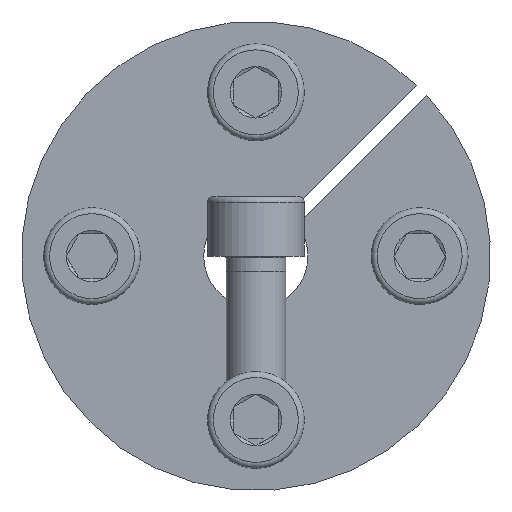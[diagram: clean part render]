
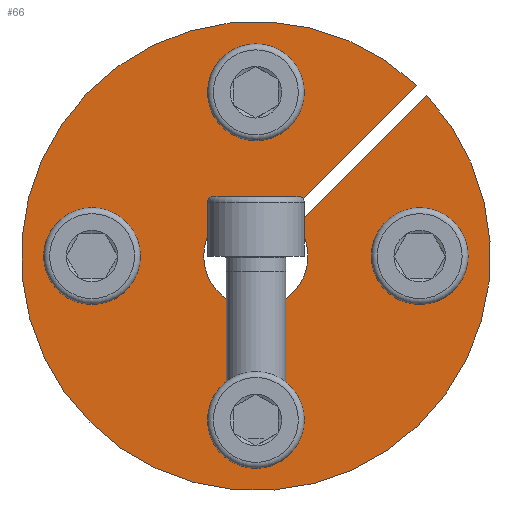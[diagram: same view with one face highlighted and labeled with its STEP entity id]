
A CAD part, front view. The second image highlights one B-rep face of the part: STEP entity #66.
In plain terms, the highlighted planar face has unit normal (0, -1, 0).
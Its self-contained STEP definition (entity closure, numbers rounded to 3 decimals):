
#66 = ADVANCED_FACE( '', ( #139, #140, #141, #142, #143 ), #144, .F. );
#139 = FACE_OUTER_BOUND( '', #245, .T. );
#140 = FACE_BOUND( '', #246, .T. );
#141 = FACE_BOUND( '', #247, .T. );
#142 = FACE_BOUND( '', #248, .T. );
#143 = FACE_BOUND( '', #249, .T. );
#144 = PLANE( '', #250 );
#245 = EDGE_LOOP( '', ( #380, #381, #382, #383 ) );
#246 = EDGE_LOOP( '', ( #384 ) );
#247 = EDGE_LOOP( '', ( #385 ) );
#248 = EDGE_LOOP( '', ( #386 ) );
#249 = EDGE_LOOP( '', ( #387 ) );
#250 = AXIS2_PLACEMENT_3D( '', #388, #389, #390 );
#380 = ORIENTED_EDGE( '', *, *, #606, .T. );
#381 = ORIENTED_EDGE( '', *, *, #607, .T. );
#382 = ORIENTED_EDGE( '', *, *, #608, .T. );
#383 = ORIENTED_EDGE( '', *, *, #609, .F. );
#384 = ORIENTED_EDGE( '', *, *, #610, .F. );
#385 = ORIENTED_EDGE( '', *, *, #611, .F. );
#386 = ORIENTED_EDGE( '', *, *, #612, .F. );
#387 = ORIENTED_EDGE( '', *, *, #613, .F. );
#388 = CARTESIAN_POINT( '', ( 0., 0., 31.5 ) );
#389 = DIRECTION( '', ( 0., 1., 0. ) );
#390 = DIRECTION( '', ( 1., 0., 0. ) );
#606 = EDGE_CURVE( '', #743, #744, #745, .T. );
#607 = EDGE_CURVE( '', #744, #746, #747, .T. );
#608 = EDGE_CURVE( '', #746, #748, #749, .T. );
#609 = EDGE_CURVE( '', #743, #748, #750, .T. );
#610 = EDGE_CURVE( '', #751, #751, #752, .T. );
#611 = EDGE_CURVE( '', #753, #753, #754, .T. );
#612 = EDGE_CURVE( '', #755, #755, #756, .T. );
#613 = EDGE_CURVE( '', #757, #757, #758, .T. );
#743 = VERTEX_POINT( '', #994 );
#744 = VERTEX_POINT( '', #995 );
#745 = LINE( '', #996, #997 );
#746 = VERTEX_POINT( '', #998 );
#747 = CIRCLE( '', #999, 31.5 );
#748 = VERTEX_POINT( '', #1000 );
#749 = LINE( '', #1001, #1002 );
#750 = CIRCLE( '', #1003, 7. );
#751 = VERTEX_POINT( '', #1004 );
#752 = CIRCLE( '', #1005, 4.5 );
#753 = VERTEX_POINT( '', #1006 );
#754 = CIRCLE( '', #1007, 4.5 );
#755 = VERTEX_POINT( '', #1008 );
#756 = CIRCLE( '', #1009, 4.5 );
#757 = VERTEX_POINT( '', #1010 );
#758 = CIRCLE( '', #1011, 4.5 );
#994 = CARTESIAN_POINT( '', ( 4.192, 0., 5.606 ) );
#995 = CARTESIAN_POINT( '', ( 21.556, 0., 22.97 ) );
#996 = CARTESIAN_POINT( '', ( 4.192, 0., 5.606 ) );
#997 = VECTOR( '', #1144, 1000. );
#998 = CARTESIAN_POINT( '', ( 22.97, 0., 21.556 ) );
#999 = AXIS2_PLACEMENT_3D( '', #1145, #1146, #1147 );
#1000 = CARTESIAN_POINT( '', ( 5.606, 0., 4.192 ) );
#1001 = CARTESIAN_POINT( '', ( 22.981, 0., 21.567 ) );
#1002 = VECTOR( '', #1148, 1000. );
#1003 = AXIS2_PLACEMENT_3D( '', #1149, #1150, #1151 );
#1004 = CARTESIAN_POINT( '', ( 4.5, 0., 22. ) );
#1005 = AXIS2_PLACEMENT_3D( '', #1152, #1153, #1154 );
#1006 = CARTESIAN_POINT( '', ( 22., 0., -4.5 ) );
#1007 = AXIS2_PLACEMENT_3D( '', #1155, #1156, #1157 );
#1008 = CARTESIAN_POINT( '', ( -4.5, 0., -22. ) );
#1009 = AXIS2_PLACEMENT_3D( '', #1158, #1159, #1160 );
#1010 = CARTESIAN_POINT( '', ( -22., 0., 4.5 ) );
#1011 = AXIS2_PLACEMENT_3D( '', #1161, #1162, #1163 );
#1144 = DIRECTION( '', ( 0.707, 0., 0.707 ) );
#1145 = CARTESIAN_POINT( '', ( 0., 0., 0. ) );
#1146 = DIRECTION( '', ( 0., -1., 0. ) );
#1147 = DIRECTION( '', ( 0., 0., -1. ) );
#1148 = DIRECTION( '', ( -0.707, 0., -0.707 ) );
#1149 = CARTESIAN_POINT( '', ( 0., 0., 0. ) );
#1150 = DIRECTION( '', ( 0., -1., 0. ) );
#1151 = DIRECTION( '', ( 0., 0., -1. ) );
#1152 = CARTESIAN_POINT( '', ( 0., 0., 22. ) );
#1153 = DIRECTION( '', ( 0., -1., 0. ) );
#1154 = DIRECTION( '', ( 1., 0., 0. ) );
#1155 = CARTESIAN_POINT( '', ( 22., 0., 0. ) );
#1156 = DIRECTION( '', ( 0., -1., 0. ) );
#1157 = DIRECTION( '', ( 0., 0., -1. ) );
#1158 = CARTESIAN_POINT( '', ( 0., 0., -22. ) );
#1159 = DIRECTION( '', ( 0., -1., 0. ) );
#1160 = DIRECTION( '', ( -1., 0., 0. ) );
#1161 = CARTESIAN_POINT( '', ( -22., 0., 0. ) );
#1162 = DIRECTION( '', ( 0., -1., 0. ) );
#1163 = DIRECTION( '', ( 0., 0., 1. ) );
